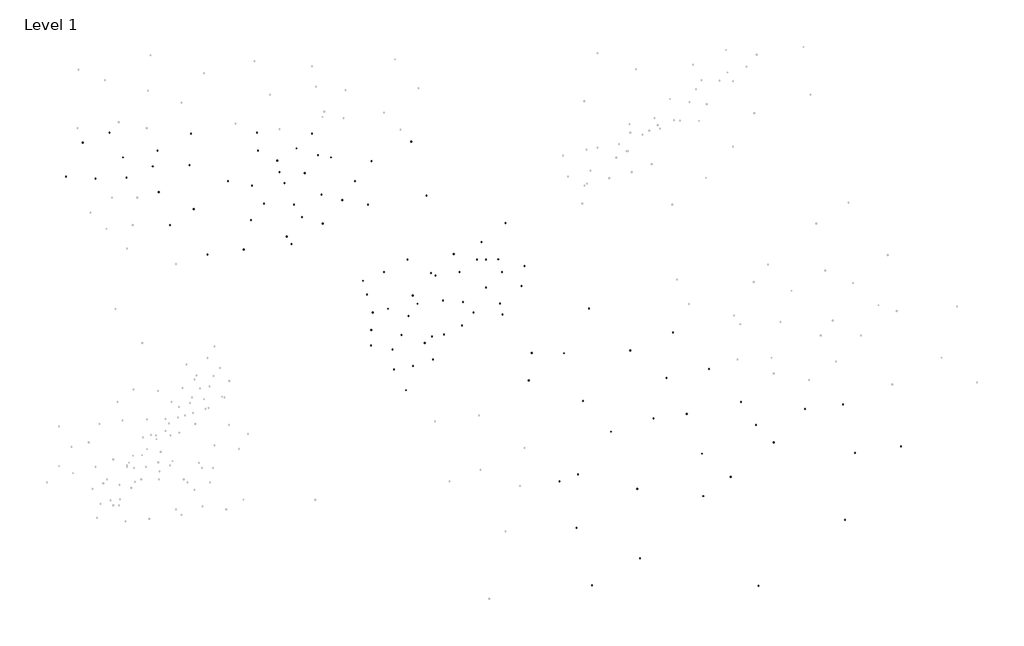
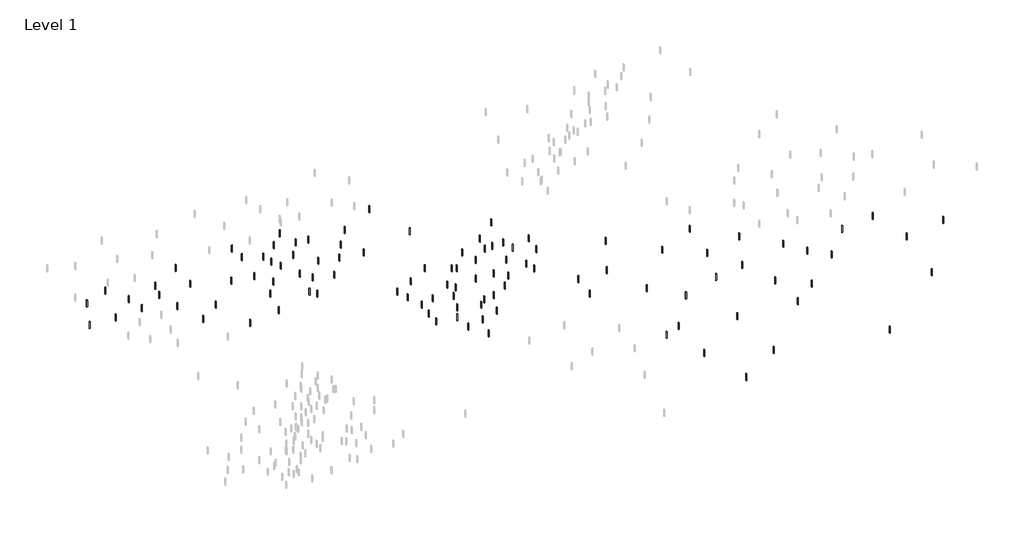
# One storey, part 2 of 3: 110 columns.
"""IFC4 building model written with IfcOpenShell, lengths in millimetres."""

import ifcopenshell
import ifcopenshell.guid

model = None  # the IFC model being written
_history = None  # IfcOwnerHistory: only IFC2X3 demands one
_inside = {}  # id of a spatial element -> (the spatial element, [elements in it])
_under = {}  # id of a project, library or spatial element -> (it, [spatial elements below it])
_declared = {}  # id of a project -> (the project, [libraries it declares])
_typed = {}  # id of a type object -> (the type object, [elements of that type])
_made_of = {}  # id of a material, layer set ... -> (it, [elements and type objects made of it])


def new_model(schema):
    """Start an empty IFC model of exactly this schema.

    Asked for "IFC4X3", IfcOpenShell would pick the latest addendum, in which some entities
    have other attributes; the version numbers below select the first issue.
    IFC2X3 requires an IfcOwnerHistory on every rooted entity: one is made here for all.
    """
    global model, _history
    if schema == "IFC4X3":
        model = ifcopenshell.file(schema_version=(4, 3, 0, 0))
    else:
        model = ifcopenshell.file(schema=schema)
    _inside.clear()
    _under.clear()
    _declared.clear()
    _typed.clear()
    _made_of.clear()
    _history = None
    if model.schema == "IFC2X3":
        org = make("IfcOrganization", Name="unknown")
        user = make(
            "IfcPersonAndOrganization",
            ThePerson=make("IfcPerson", FamilyName="unknown"),
            TheOrganization=org,
        )
        app = make(
            "IfcApplication",
            ApplicationDeveloper=org,
            Version="unknown",
            ApplicationFullName="unknown",
            ApplicationIdentifier="unknown",
        )
        _history = make(
            "IfcOwnerHistory",
            OwningUser=user,
            OwningApplication=app,
            ChangeAction="ADDED",
            CreationDate=0,
        )
    return model


def make(cls, **values):
    """One entity of the class cls with the attributes given. An attribute that is None is left unset."""
    return model.create_entity(
        cls, **{name: value for name, value in values.items() if value is not None}
    )


def rooted(cls, **values):
    """An entity with a GlobalId (a new one), such as an element, a storey or a relation."""
    return make(cls, GlobalId=ifcopenshell.guid.new(), OwnerHistory=_history, **values)


def si_unit(unit_type, name, prefix=None):
    """IfcSIUnit, for example si_unit("LENGTHUNIT", "METRE", prefix="MILLI")."""
    return make("IfcSIUnit", UnitType=unit_type, Prefix=prefix, Name=name)


def assignment(units):
    """IfcUnitAssignment: the units of a project."""
    return None if units is None else make("IfcUnitAssignment", Units=units)


def point(xyz):
    """IfcCartesianPoint."""
    return None if xyz is None else make("IfcCartesianPoint", Coordinates=xyz)


def direction(xyz):
    """IfcDirection."""
    return None if xyz is None else make("IfcDirection", DirectionRatios=xyz)


def frame(location, z_axis=None, x_axis=None):
    """IfcAxis2Placement3D, a coordinate frame: its origin and axes. An axis left out is left unset."""
    return make(
        "IfcAxis2Placement3D",
        Location=point(location),
        Axis=direction(z_axis),
        RefDirection=direction(x_axis),
    )


def origin():
    """The frame at (0, 0, 0) with its axes left unset."""
    return frame((0.0, 0.0, 0.0))


def origin_with_axes():
    """The frame at (0, 0, 0) with the z axis (0, 0, 1) and the x axis (1, 0, 0) written out."""
    return frame((0.0, 0.0, 0.0), z_axis=(0.0, 0.0, 1.0), x_axis=(1.0, 0.0, 0.0))


def place(relative_to, where):
    """IfcLocalPlacement: puts the frame where relative to a parent placement (None: the world)."""
    return make(
        "IfcLocalPlacement", PlacementRelTo=relative_to, RelativePlacement=where
    )


def context(
    kind, dimensions, precision=None, world=None, true_north=None, identifier=None
):
    """IfcGeometricRepresentationContext, for example the 3D "Model" context."""
    return make(
        "IfcGeometricRepresentationContext",
        ContextIdentifier=identifier,
        ContextType=kind,
        CoordinateSpaceDimension=dimensions,
        Precision=precision,
        WorldCoordinateSystem=world,
        TrueNorth=true_north,
    )


def project(units=None, contexts=None):
    """IfcProject with its units and contexts."""
    return rooted(
        "IfcProject",
        Name="project",
        RepresentationContexts=contexts,
        UnitsInContext=assignment(units),
    )


def spatial(cls, under=None, at=None, **own):
    """A site, building, storey or space (cls), placed at a placement, below another one or the project."""
    s = rooted(cls, ObjectPlacement=at, **own)
    if under is not None:
        _under.setdefault(under.id(), (under, []))[1].append(s)
    return s


def polyline(points):
    """IfcPolyline through the points."""
    return make("IfcPolyline", Points=[point(p) for p in points])


def outline(outer, holes=None, kind="AREA"):
    """IfcArbitraryClosedProfileDef: a profile drawn as a closed curve; with holes, ...WithVoids."""
    if holes is None:
        return make("IfcArbitraryClosedProfileDef", ProfileType=kind, OuterCurve=outer)
    return make(
        "IfcArbitraryProfileDefWithVoids",
        ProfileType=kind,
        OuterCurve=outer,
        InnerCurves=holes,
    )


def extrude(swept, where, along, depth):
    """IfcExtrudedAreaSolid: the profile swept, set in the frame where, extruded along a direction by depth."""
    return make(
        "IfcExtrudedAreaSolid",
        SweptArea=swept,
        Position=where,
        ExtrudedDirection=direction(along),
        Depth=depth,
    )


def shape(context_of_items, identifier, shape_type, items):
    """IfcShapeRepresentation: the items that make up one representation, for example the "Body"."""
    return make(
        "IfcShapeRepresentation",
        ContextOfItems=context_of_items,
        RepresentationIdentifier=identifier,
        RepresentationType=shape_type,
        Items=items,
    )


def source(mapping_origin, context_of_items, identifier, shape_type, items):
    """IfcRepresentationMap: a shape defined once, which mapped items show again and again."""
    return make(
        "IfcRepresentationMap",
        MappingOrigin=mapping_origin,
        MappedRepresentation=shape(context_of_items, identifier, shape_type, items),
    )


def transform(
    local_origin,
    x_axis=None,
    y_axis=None,
    z_axis=None,
    scale=None,
    scale2=None,
    scale3=None,
    uniform=True,
):
    """IfcCartesianTransformationOperator3D, or its non-uniform kind. x_axis, y_axis, z_axis: its Axis1, 2, 3."""
    if uniform:
        return make(
            "IfcCartesianTransformationOperator3D",
            Axis1=direction(x_axis),
            Axis2=direction(y_axis),
            LocalOrigin=point(local_origin),
            Scale=scale,
            Axis3=direction(z_axis),
        )
    return make(
        "IfcCartesianTransformationOperator3DnonUniform",
        Axis1=direction(x_axis),
        Axis2=direction(y_axis),
        LocalOrigin=point(local_origin),
        Scale=scale,
        Axis3=direction(z_axis),
        Scale2=scale2,
        Scale3=scale3,
    )


def mapped(mapping_source, mapping_target):
    """IfcMappedItem: shows the shape of a source again, moved by a transform."""
    return make(
        "IfcMappedItem", MappingSource=mapping_source, MappingTarget=mapping_target
    )


def made_of(thing, what):
    """Note that an element or type object is made of a material, layer set ...; save() writes the relation."""
    if what is not None:
        _made_of.setdefault(what.id(), (what, []))[1].append(thing)
    return thing


def element(
    cls,
    number,
    at=None,
    inside=None,
    cuts=None,
    type_object=None,
    material=None,
    context=None,
    identifier="Body",
    shape_type=None,
    held_by="IfcProductDefinitionShape",
    body=None,
    shapes=None,
    **own,
):
    """One element of the class cls, such as IfcWall. Its Tag is "e" and its number.

    at: its placement. inside: the storey or other place that contains it. cuts: it is an
    opening in that element (IfcRelVoidsElement). A single representation is given by context,
    identifier, shape_type and body (its items); several are given by shapes. held_by: the class
    of the entity that holds the representations. save() writes the other relations.
    """
    e = rooted(cls, Tag="e%d" % number, ObjectPlacement=at, **own)
    if body is not None:
        shapes = [shape(context, identifier, shape_type, body)]
    if shapes is not None:
        e.Representation = make(held_by, Representations=shapes)
    if inside is not None:
        _inside.setdefault(inside.id(), (inside, []))[1].append(e)
    if cuts is not None:
        rooted(
            "IfcRelVoidsElement", RelatingBuildingElement=cuts, RelatedOpeningElement=e
        )
    if type_object is not None:
        _typed.setdefault(type_object.id(), (type_object, []))[1].append(e)
    return made_of(e, material)


def aggregate(whole, parts):
    """IfcRelAggregates: a whole, such as a stair, and the parts it consists of."""
    return rooted("IfcRelAggregates", RelatingObject=whole, RelatedObjects=parts)


def save(model, path):
    """Write the relations noted so far, then the file.

    IfcRelAggregates (storeys below a building ...), IfcRelContainedInSpatialStructure (elements
    in a storey), IfcRelDefinesByType, IfcRelAssociatesMaterial and IfcRelDeclares: one each for
    every whole, place, type object, material and project.
    """
    for whole, parts in _under.values():
        aggregate(whole, parts)
    for where, things in _inside.values():
        rooted(
            "IfcRelContainedInSpatialStructure",
            RelatedElements=things,
            RelatingStructure=where,
        )
    for kind, things in _typed.values():
        rooted("IfcRelDefinesByType", RelatedObjects=things, RelatingType=kind)
    for what, things in _made_of.values():
        rooted("IfcRelAssociatesMaterial", RelatedObjects=things, RelatingMaterial=what)
    for by, libraries in _declared.values():
        rooted("IfcRelDeclares", RelatingContext=by, RelatedDefinitions=libraries)
    model.write(path)


def concrete_rectangular_column_12_x_18_4e544043(model_context):
    return source(origin(), model_context, "Body", "SweptSolid", [
        extrude(outline(polyline([(152.4, 228.6), (152.4, -228.6), (-152.4, -228.6), (-152.4, 228.6), (152.4, 228.6)])), origin_with_axes(), (0.0, 0.0, 1.0), 4000.0),
    ])


model = new_model("IFC4")

# Units and contexts
model_context = context("Model", 3, world=origin())
ifc_project = project(units=[si_unit("LENGTHUNIT", "METRE", prefix="MILLI")], contexts=[model_context])

# Site, building, storey
site = spatial("IfcSite", under=ifc_project)
building = spatial("IfcBuilding", under=site)
storey = spatial("IfcBuildingStorey", under=building, Name="Level 1", Elevation=0.0)

# Columns
placement = place(None, origin())
concrete_rectangular_column_12_x_18_shape = concrete_rectangular_column_12_x_18_4e544043(model_context)
element("IfcColumn", 1, ObjectType="Concrete-Rectangular-Column : 12 x 18", at=placement, inside=storey, context=model_context, shape_type="MappedRepresentation", body=[
    mapped(concrete_rectangular_column_12_x_18_shape, transform((363757.8333105, 113456.6200125, 0.0), x_axis=(1.0, 0.0, 0.0), y_axis=(0.0, 1.0, 0.0), z_axis=(0.0, 0.0, 1.0))),
])
element("IfcColumn", 2, ObjectType="Concrete-Rectangular-Column : 12 x 18", at=placement, inside=storey, context=model_context, shape_type="MappedRepresentation", body=[
    mapped(concrete_rectangular_column_12_x_18_shape, transform((320395.7430506, 136221.7173989, 0.0), x_axis=(1.0, 0.0, 0.0), y_axis=(0.0, 1.0, 0.0), z_axis=(0.0, 0.0, 1.0))),
])
element("IfcColumn", 3, ObjectType="Concrete-Rectangular-Column : 12 x 18", at=placement, inside=storey, context=model_context, shape_type="MappedRepresentation", body=[
    mapped(concrete_rectangular_column_12_x_18_shape, transform((406035.8713138, 123213.090321, 0.0), x_axis=(1.0, 0.0, 0.0), y_axis=(0.0, 1.0, 0.0), z_axis=(0.0, 0.0, 1.0))),
])
element("IfcColumn", 4, ObjectType="Concrete-Rectangular-Column : 12 x 18", at=placement, inside=storey, context=model_context, shape_type="MappedRepresentation", body=[
    mapped(concrete_rectangular_column_12_x_18_shape, transform((372430.2513624, 104784.2019605, 0.0), x_axis=(1.0, 0.0, 0.0), y_axis=(0.0, 1.0, 0.0), z_axis=(0.0, 0.0, 1.0))),
])
element("IfcColumn", 5, ObjectType="Concrete-Rectangular-Column : 12 x 18", at=placement, inside=storey, context=model_context, shape_type="MappedRepresentation", body=[
    mapped(concrete_rectangular_column_12_x_18_shape, transform((340992.735924, 140557.9264249, 0.0), x_axis=(1.0, 0.0, 0.0), y_axis=(0.0, 1.0, 0.0), z_axis=(0.0, 0.0, 1.0))),
])
element("IfcColumn", 6, ObjectType="Concrete-Rectangular-Column : 12 x 18", at=placement, inside=storey, context=model_context, shape_type="MappedRepresentation", body=[
    mapped(concrete_rectangular_column_12_x_18_shape, transform((387606.9829534, 121044.985808, 0.0), x_axis=(1.0, 0.0, 0.0), y_axis=(0.0, 1.0, 0.0), z_axis=(0.0, 0.0, 1.0))),
])
element("IfcColumn", 7, ObjectType="Concrete-Rectangular-Column : 12 x 18", at=placement, inside=storey, context=model_context, shape_type="MappedRepresentation", body=[
    mapped(concrete_rectangular_column_12_x_18_shape, transform((434221.0131722, 102969.9321041, 0.0), x_axis=(1.0, 0.0, 0.0), y_axis=(0.0, 1.0, 0.0), z_axis=(0.0, 0.0, 1.0))),
])
element("IfcColumn", 8, ObjectType="Concrete-Rectangular-Column : 12 x 18", at=placement, inside=storey, context=model_context, shape_type="MappedRepresentation", body=[
    mapped(concrete_rectangular_column_12_x_18_shape, transform((279880.4824216, 125018.5793541, 0.0), x_axis=(1.0, 0.0, 0.0), y_axis=(0.0, 1.0, 0.0), z_axis=(0.0, 0.0, 1.0))),
])
element("IfcColumn", 9, ObjectType="Concrete-Rectangular-Column : 12 x 18", at=placement, inside=storey, context=model_context, shape_type="MappedRepresentation", body=[
    mapped(concrete_rectangular_column_12_x_18_shape, transform((197375.8669051, 142088.4998058, 0.0), x_axis=(1.0, 0.0, 0.0), y_axis=(0.0, 1.0, 0.0), z_axis=(0.0, 0.0, 1.0))),
])
element("IfcColumn", 10, ObjectType="Concrete-Rectangular-Column : 12 x 18", at=placement, inside=storey, context=model_context, shape_type="MappedRepresentation", body=[
    mapped(concrete_rectangular_column_12_x_18_shape, transform((240761.9147198, 166982.1337979, 0.0), x_axis=(1.0, 0.0, 0.0), y_axis=(0.0, 1.0, 0.0), z_axis=(0.0, 0.0, 1.0))),
])
element("IfcColumn", 11, ObjectType="Concrete-Rectangular-Column : 12 x 18", at=placement, inside=storey, context=model_context, shape_type="MappedRepresentation", body=[
    mapped(concrete_rectangular_column_12_x_18_shape, transform((139618.3187104, 220357.2656657, 0.0), x_axis=(1.0, 0.0, 0.0), y_axis=(0.0, 1.0, 0.0), z_axis=(0.0, 0.0, 1.0))),
])
element("IfcColumn", 12, ObjectType="Concrete-Rectangular-Column : 12 x 18", at=placement, inside=storey, context=model_context, shape_type="MappedRepresentation", body=[
    mapped(concrete_rectangular_column_12_x_18_shape, transform((119301.7974228, 229628.8782884, 0.0), x_axis=(1.0, 0.0, 0.0), y_axis=(0.0, 1.0, 0.0), z_axis=(0.0, 0.0, 1.0))),
])
element("IfcColumn", 13, ObjectType="Concrete-Rectangular-Column : 12 x 18", at=placement, inside=storey, context=model_context, shape_type="MappedRepresentation", body=[
    mapped(concrete_rectangular_column_12_x_18_shape, transform((132652.6542689, 236173.5460221, 0.0), x_axis=(1.0, 0.0, 0.0), y_axis=(0.0, 1.0, 0.0), z_axis=(0.0, 0.0, 1.0))),
])
element("IfcColumn", 14, ObjectType="Concrete-Rectangular-Column : 12 x 18", at=placement, inside=storey, context=model_context, shape_type="MappedRepresentation", body=[
    mapped(concrete_rectangular_column_12_x_18_shape, transform((107692.3566871, 231810.4341997, 0.0), x_axis=(1.0, 0.0, 0.0), y_axis=(0.0, 1.0, 0.0), z_axis=(0.0, 0.0, 1.0))),
])
element("IfcColumn", 15, ObjectType="Concrete-Rectangular-Column : 12 x 18", at=placement, inside=storey, context=model_context, shape_type="MappedRepresentation", body=[
    mapped(concrete_rectangular_column_12_x_18_shape, transform((118721.325386, 212721.8199764, 0.0), x_axis=(1.0, 0.0, 0.0), y_axis=(0.0, 1.0, 0.0), z_axis=(0.0, 0.0, 1.0))),
])
element("IfcColumn", 16, ObjectType="Concrete-Rectangular-Column : 12 x 18", at=placement, inside=storey, context=model_context, shape_type="MappedRepresentation", body=[
    mapped(concrete_rectangular_column_12_x_18_shape, transform((43259.9606037, 232901.2121553, 0.0), x_axis=(1.0, 0.0, 0.0), y_axis=(0.0, 1.0, 0.0), z_axis=(0.0, 0.0, 1.0))),
])
element("IfcColumn", 17, ObjectType="Concrete-Rectangular-Column : 12 x 18", at=placement, inside=storey, context=model_context, shape_type="MappedRepresentation", body=[
    mapped(concrete_rectangular_column_12_x_18_shape, transform((58352.2335602, 233446.6011331, 0.0), x_axis=(1.0, 0.0, 0.0), y_axis=(0.0, 1.0, 0.0), z_axis=(0.0, 0.0, 1.0))),
])
element("IfcColumn", 18, ObjectType="Concrete-Rectangular-Column : 12 x 18", at=placement, inside=storey, context=model_context, shape_type="MappedRepresentation", body=[
    mapped(concrete_rectangular_column_12_x_18_shape, transform((56610.8174498, 243263.6027336, 0.0), x_axis=(1.0, 0.0, 0.0), y_axis=(0.0, 1.0, 0.0), z_axis=(0.0, 0.0, 1.0))),
])
element("IfcColumn", 19, ObjectType="Concrete-Rectangular-Column : 12 x 18", at=placement, inside=storey, context=model_context, shape_type="MappedRepresentation", body=[
    mapped(concrete_rectangular_column_12_x_18_shape, transform((151227.7594461, 244354.3806892, 0.0), x_axis=(1.0, 0.0, 0.0), y_axis=(0.0, 1.0, 0.0), z_axis=(0.0, 0.0, 1.0))),
])
element("IfcColumn", 20, ObjectType="Concrete-Rectangular-Column : 12 x 18", at=placement, inside=storey, context=model_context, shape_type="MappedRepresentation", body=[
    mapped(concrete_rectangular_column_12_x_18_shape, transform((148325.3992622, 254716.7712675, 0.0), x_axis=(1.0, 0.0, 0.0), y_axis=(0.0, 1.0, 0.0), z_axis=(0.0, 0.0, 1.0))),
])
element("IfcColumn", 21, ObjectType="Concrete-Rectangular-Column : 12 x 18", at=placement, inside=storey, context=model_context, shape_type="MappedRepresentation", body=[
    mapped(concrete_rectangular_column_12_x_18_shape, transform((131491.7101953, 241627.4358002, 0.0), x_axis=(1.0, 0.0, 0.0), y_axis=(0.0, 1.0, 0.0), z_axis=(0.0, 0.0, 1.0))),
])
element("IfcColumn", 22, ObjectType="Concrete-Rectangular-Column : 12 x 18", at=placement, inside=storey, context=model_context, shape_type="MappedRepresentation", body=[
    mapped(concrete_rectangular_column_12_x_18_shape, transform((144842.5670415, 235628.1570443, 0.0), x_axis=(1.0, 0.0, 0.0), y_axis=(0.0, 1.0, 0.0), z_axis=(0.0, 0.0, 1.0))),
])
element("IfcColumn", 23, ObjectType="Concrete-Rectangular-Column : 12 x 18", at=placement, inside=storey, context=model_context, shape_type="MappedRepresentation", body=[
    mapped(concrete_rectangular_column_12_x_18_shape, transform((71122.6183695, 238900.4909111, 0.0), x_axis=(1.0, 0.0, 0.0), y_axis=(0.0, 1.0, 0.0), z_axis=(0.0, 0.0, 1.0))),
])
element("IfcColumn", 24, ObjectType="Concrete-Rectangular-Column : 12 x 18", at=placement, inside=storey, context=model_context, shape_type="MappedRepresentation", body=[
    mapped(concrete_rectangular_column_12_x_18_shape, transform((50225.6250451, 255262.1602453, 0.0), x_axis=(1.0, 0.0, 0.0), y_axis=(0.0, 1.0, 0.0), z_axis=(0.0, 0.0, 1.0))),
])
element("IfcColumn", 25, ObjectType="Concrete-Rectangular-Column : 12 x 18", at=placement, inside=storey, context=model_context, shape_type="MappedRepresentation", body=[
    mapped(concrete_rectangular_column_12_x_18_shape, transform((89697.7235467, 254716.7712675, 0.0), x_axis=(1.0, 0.0, 0.0), y_axis=(0.0, 1.0, 0.0), z_axis=(0.0, 0.0, 1.0))),
])
element("IfcColumn", 26, ObjectType="Concrete-Rectangular-Column : 12 x 18", at=placement, inside=storey, context=model_context, shape_type="MappedRepresentation", body=[
    mapped(concrete_rectangular_column_12_x_18_shape, transform((74024.9785534, 226356.5444216, 0.0), x_axis=(1.0, 0.0, 0.0), y_axis=(0.0, 1.0, 0.0), z_axis=(0.0, 0.0, 1.0))),
])
element("IfcColumn", 27, ObjectType="Concrete-Rectangular-Column : 12 x 18", at=placement, inside=storey, context=model_context, shape_type="MappedRepresentation", body=[
    mapped(concrete_rectangular_column_12_x_18_shape, transform((282725.4691635, 169827.1205398, 0.0), x_axis=(1.0, 0.0, 0.0), y_axis=(0.0, 1.0, 0.0), z_axis=(0.0, 0.0, 1.0))),
])
element("IfcColumn", 28, ObjectType="Concrete-Rectangular-Column : 12 x 18", at=placement, inside=storey, context=model_context, shape_type="MappedRepresentation", body=[
    mapped(concrete_rectangular_column_12_x_18_shape, transform((306196.6097846, 82343.7782249, 0.0), x_axis=(1.0, 0.0, 0.0), y_axis=(0.0, 1.0, 0.0), z_axis=(0.0, 0.0, 1.0))),
])
element("IfcColumn", 29, ObjectType="Concrete-Rectangular-Column : 12 x 18", at=placement, inside=storey, context=model_context, shape_type="MappedRepresentation", body=[
    mapped(concrete_rectangular_column_12_x_18_shape, transform((268500.5354538, 85900.0116524, 0.0), x_axis=(1.0, 0.0, 0.0), y_axis=(0.0, 1.0, 0.0), z_axis=(0.0, 0.0, 1.0))),
])
element("IfcColumn", 30, ObjectType="Concrete-Rectangular-Column : 12 x 18", at=placement, inside=storey, context=model_context, shape_type="MappedRepresentation", body=[
    mapped(concrete_rectangular_column_12_x_18_shape, transform((284147.9625345, 35401.4969828, 0.0), x_axis=(1.0, 0.0, 0.0), y_axis=(0.0, 1.0, 0.0), z_axis=(0.0, 0.0, 1.0))),
])
element("IfcColumn", 31, ObjectType="Concrete-Rectangular-Column : 12 x 18", at=placement, inside=storey, context=model_context, shape_type="MappedRepresentation", body=[
    mapped(concrete_rectangular_column_12_x_18_shape, transform((338202.7106315, 78787.5447975, 0.0), x_axis=(1.0, 0.0, 0.0), y_axis=(0.0, 1.0, 0.0), z_axis=(0.0, 0.0, 1.0))),
])
element("IfcColumn", 32, ObjectType="Concrete-Rectangular-Column : 12 x 18", at=placement, inside=storey, context=model_context, shape_type="MappedRepresentation", body=[
    mapped(concrete_rectangular_column_12_x_18_shape, transform((314020.323325, 116483.6191283, 0.0), x_axis=(1.0, 0.0, 0.0), y_axis=(0.0, 1.0, 0.0), z_axis=(0.0, 0.0, 1.0))),
])
element("IfcColumn", 33, ObjectType="Concrete-Rectangular-Column : 12 x 18", at=placement, inside=storey, context=model_context, shape_type="MappedRepresentation", body=[
    mapped(concrete_rectangular_column_12_x_18_shape, transform((253564.3550586, 134976.032951, 0.0), x_axis=(1.0, 0.0, 0.0), y_axis=(0.0, 1.0, 0.0), z_axis=(0.0, 0.0, 1.0))),
])
element("IfcColumn", 34, ObjectType="Concrete-Rectangular-Column : 12 x 18", at=placement, inside=storey, context=model_context, shape_type="MappedRepresentation", body=[
    mapped(concrete_rectangular_column_12_x_18_shape, transform((115238.4931653, 198541.7065535, 0.0), x_axis=(1.0, 0.0, 0.0), y_axis=(0.0, 1.0, 0.0), z_axis=(0.0, 0.0, 1.0))),
])
element("IfcColumn", 35, ObjectType="Concrete-Rectangular-Column : 12 x 18", at=placement, inside=storey, context=model_context, shape_type="MappedRepresentation", body=[
    mapped(concrete_rectangular_column_12_x_18_shape, transform((138457.3746368, 201268.6514425, 0.0), x_axis=(1.0, 0.0, 0.0), y_axis=(0.0, 1.0, 0.0), z_axis=(0.0, 0.0, 1.0))),
])
element("IfcColumn", 36, ObjectType="Concrete-Rectangular-Column : 12 x 18", at=placement, inside=storey, context=model_context, shape_type="MappedRepresentation", body=[
    mapped(concrete_rectangular_column_12_x_18_shape, transform((134974.5424161, 230719.656244, 0.0), x_axis=(1.0, 0.0, 0.0), y_axis=(0.0, 1.0, 0.0), z_axis=(0.0, 0.0, 1.0))),
])
element("IfcColumn", 37, ObjectType="Concrete-Rectangular-Column : 12 x 18", at=placement, inside=storey, context=model_context, shape_type="MappedRepresentation", body=[
    mapped(concrete_rectangular_column_12_x_18_shape, transform((169222.3925865, 231810.4341997, 0.0), x_axis=(1.0, 0.0, 0.0), y_axis=(0.0, 1.0, 0.0), z_axis=(0.0, 0.0, 1.0))),
])
element("IfcColumn", 38, ObjectType="Concrete-Rectangular-Column : 12 x 18", at=placement, inside=storey, context=model_context, shape_type="MappedRepresentation", body=[
    mapped(concrete_rectangular_column_12_x_18_shape, transform((157612.9518508, 243263.6027336, 0.0), x_axis=(1.0, 0.0, 0.0), y_axis=(0.0, 1.0, 0.0), z_axis=(0.0, 0.0, 1.0))),
])
element("IfcColumn", 39, ObjectType="Concrete-Rectangular-Column : 12 x 18", at=placement, inside=storey, context=model_context, shape_type="MappedRepresentation", body=[
    mapped(concrete_rectangular_column_12_x_18_shape, transform((196504.5783155, 250899.0484229, 0.0), x_axis=(1.0, 0.0, 0.0), y_axis=(0.0, 1.0, 0.0), z_axis=(0.0, 0.0, 1.0))),
])
element("IfcColumn", 40, ObjectType="Concrete-Rectangular-Column : 12 x 18", at=placement, inside=storey, context=model_context, shape_type="MappedRepresentation", body=[
    mapped(concrete_rectangular_column_12_x_18_shape, transform((140779.2627839, 247626.714556, 0.0), x_axis=(1.0, 0.0, 0.0), y_axis=(0.0, 1.0, 0.0), z_axis=(0.0, 0.0, 1.0))),
])
element("IfcColumn", 41, ObjectType="Concrete-Rectangular-Column : 12 x 18", at=placement, inside=storey, context=model_context, shape_type="MappedRepresentation", body=[
    mapped(concrete_rectangular_column_12_x_18_shape, transform((121623.68557, 255262.1602453, 0.0), x_axis=(1.0, 0.0, 0.0), y_axis=(0.0, 1.0, 0.0), z_axis=(0.0, 0.0, 1.0))),
])
element("IfcColumn", 42, ObjectType="Concrete-Rectangular-Column : 12 x 18", at=placement, inside=storey, context=model_context, shape_type="MappedRepresentation", body=[
    mapped(concrete_rectangular_column_12_x_18_shape, transform((122204.1576068, 246535.9366004, 0.0), x_axis=(1.0, 0.0, 0.0), y_axis=(0.0, 1.0, 0.0), z_axis=(0.0, 0.0, 1.0))),
])
element("IfcColumn", 43, ObjectType="Concrete-Rectangular-Column : 12 x 18", at=placement, inside=storey, context=model_context, shape_type="MappedRepresentation", body=[
    mapped(concrete_rectangular_column_12_x_18_shape, transform((152969.1755565, 225265.766466, 0.0), x_axis=(1.0, 0.0, 0.0), y_axis=(0.0, 1.0, 0.0), z_axis=(0.0, 0.0, 1.0))),
])
element("IfcColumn", 44, ObjectType="Concrete-Rectangular-Column : 12 x 18", at=placement, inside=storey, context=model_context, shape_type="MappedRepresentation", body=[
    mapped(concrete_rectangular_column_12_x_18_shape, transform((125106.5177907, 220902.6546435, 0.0), x_axis=(1.0, 0.0, 0.0), y_axis=(0.0, 1.0, 0.0), z_axis=(0.0, 0.0, 1.0))),
])
element("IfcColumn", 45, ObjectType="Concrete-Rectangular-Column : 12 x 18", at=placement, inside=storey, context=model_context, shape_type="MappedRepresentation", body=[
    mapped(concrete_rectangular_column_12_x_18_shape, transform((173193.4795986, 183340.8075641, 0.0), x_axis=(1.0, 0.0, 0.0), y_axis=(0.0, 1.0, 0.0), z_axis=(0.0, 0.0, 1.0))),
])
element("IfcColumn", 46, ObjectType="Concrete-Rectangular-Column : 12 x 18", at=placement, inside=storey, context=model_context, shape_type="MappedRepresentation", body=[
    mapped(concrete_rectangular_column_12_x_18_shape, transform((175607.5849912, 220357.2656657, 0.0), x_axis=(1.0, 0.0, 0.0), y_axis=(0.0, 1.0, 0.0), z_axis=(0.0, 0.0, 1.0))),
])
element("IfcColumn", 47, ObjectType="Concrete-Rectangular-Column : 12 x 18", at=placement, inside=storey, context=model_context, shape_type="MappedRepresentation", body=[
    mapped(concrete_rectangular_column_12_x_18_shape, transform((206622.0738165, 156313.4335156, 0.0), x_axis=(1.0, 0.0, 0.0), y_axis=(0.0, 1.0, 0.0), z_axis=(0.0, 0.0, 1.0))),
])
element("IfcColumn", 48, ObjectType="Concrete-Rectangular-Column : 12 x 18", at=placement, inside=storey, context=model_context, shape_type="MappedRepresentation", body=[
    mapped(concrete_rectangular_column_12_x_18_shape, transform((194766.1156975, 193730.9777909, 0.0), x_axis=(1.0, 0.0, 0.0), y_axis=(0.0, 1.0, 0.0), z_axis=(0.0, 0.0, 1.0))),
])
element("IfcColumn", 49, ObjectType="Concrete-Rectangular-Column : 12 x 18", at=placement, inside=storey, context=model_context, shape_type="MappedRepresentation", body=[
    mapped(concrete_rectangular_column_12_x_18_shape, transform((177191.7441578, 241475.8859571, 0.0), x_axis=(1.0, 0.0, 0.0), y_axis=(0.0, 1.0, 0.0), z_axis=(0.0, 0.0, 1.0))),
])
element("IfcColumn", 50, ObjectType="Concrete-Rectangular-Column : 12 x 18", at=placement, inside=storey, context=model_context, shape_type="MappedRepresentation", body=[
    mapped(concrete_rectangular_column_12_x_18_shape, transform((163052.7854946, 222498.1483233, 0.0), x_axis=(1.0, 0.0, 0.0), y_axis=(0.0, 1.0, 0.0), z_axis=(0.0, 0.0, 1.0))),
])
element("IfcColumn", 51, ObjectType="Concrete-Rectangular-Column : 12 x 18", at=placement, inside=storey, context=model_context, shape_type="MappedRepresentation", body=[
    mapped(concrete_rectangular_column_12_x_18_shape, transform((136121.43566, 204785.5931983, 0.0), x_axis=(1.0, 0.0, 0.0), y_axis=(0.0, 1.0, 0.0), z_axis=(0.0, 0.0, 1.0))),
])
element("IfcColumn", 52, ObjectType="Concrete-Rectangular-Column : 12 x 18", at=placement, inside=storey, context=model_context, shape_type="MappedRepresentation", body=[
    mapped(concrete_rectangular_column_12_x_18_shape, transform((143527.5568645, 214274.4620152, 0.0), x_axis=(1.0, 0.0, 0.0), y_axis=(0.0, 1.0, 0.0), z_axis=(0.0, 0.0, 1.0))),
])
element("IfcColumn", 53, ObjectType="Concrete-Rectangular-Column : 12 x 18", at=placement, inside=storey, context=model_context, shape_type="MappedRepresentation", body=[
    mapped(concrete_rectangular_column_12_x_18_shape, transform((153626.8130525, 211111.5057429, 0.0), x_axis=(1.0, 0.0, 0.0), y_axis=(0.0, 1.0, 0.0), z_axis=(0.0, 0.0, 1.0))),
])
element("IfcColumn", 54, ObjectType="Concrete-Rectangular-Column : 12 x 18", at=placement, inside=storey, context=model_context, shape_type="MappedRepresentation", body=[
    mapped(concrete_rectangular_column_12_x_18_shape, transform((73506.0472945, 246536.6159928, 0.0), x_axis=(1.0, 0.0, 0.0), y_axis=(0.0, 1.0, 0.0), z_axis=(0.0, 0.0, 1.0))),
])
element("IfcColumn", 55, ObjectType="Concrete-Rectangular-Column : 12 x 18", at=placement, inside=storey, context=model_context, shape_type="MappedRepresentation", body=[
    mapped(concrete_rectangular_column_12_x_18_shape, transform((88991.5734494, 239578.1121937, 0.0), x_axis=(1.0, 0.0, 0.0), y_axis=(0.0, 1.0, 0.0), z_axis=(0.0, 0.0, 1.0))),
])
element("IfcColumn", 56, ObjectType="Concrete-Rectangular-Column : 12 x 18", at=placement, inside=storey, context=model_context, shape_type="MappedRepresentation", body=[
    mapped(concrete_rectangular_column_12_x_18_shape, transform((91011.424687, 218070.009542, 0.0), x_axis=(1.0, 0.0, 0.0), y_axis=(0.0, 1.0, 0.0), z_axis=(0.0, 0.0, 1.0))),
])
element("IfcColumn", 57, ObjectType="Concrete-Rectangular-Column : 12 x 18", at=placement, inside=storey, context=model_context, shape_type="MappedRepresentation", body=[
    mapped(concrete_rectangular_column_12_x_18_shape, transform((79565.6010072, 210478.9144885, 0.0), x_axis=(1.0, 0.0, 0.0), y_axis=(0.0, 1.0, 0.0), z_axis=(0.0, 0.0, 1.0))),
])
element("IfcColumn", 58, ObjectType="Concrete-Rectangular-Column : 12 x 18", at=placement, inside=storey, context=model_context, shape_type="MappedRepresentation", body=[
    mapped(concrete_rectangular_column_12_x_18_shape, transform((29069.3200673, 233884.7909036, 0.0), x_axis=(1.0, 0.0, 0.0), y_axis=(0.0, 1.0, 0.0), z_axis=(0.0, 0.0, 1.0))),
])
element("IfcColumn", 59, ObjectType="Concrete-Rectangular-Column : 12 x 18", at=placement, inside=storey, context=model_context, shape_type="MappedRepresentation", body=[
    mapped(concrete_rectangular_column_12_x_18_shape, transform((37148.7250177, 250332.1635196, 0.0), x_axis=(1.0, 0.0, 0.0), y_axis=(0.0, 1.0, 0.0), z_axis=(0.0, 0.0, 1.0))),
])
element("IfcColumn", 60, ObjectType="Concrete-Rectangular-Column : 12 x 18", at=placement, inside=storey, context=model_context, shape_type="MappedRepresentation", body=[
    mapped(concrete_rectangular_column_12_x_18_shape, transform((356459.8360647, 124433.669062, 0.0), x_axis=(1.0, 0.0, 0.0), y_axis=(0.0, 1.0, 0.0), z_axis=(0.0, 0.0, 1.0))),
])
element("IfcColumn", 61, ObjectType="Concrete-Rectangular-Column : 12 x 18", at=placement, inside=storey, context=model_context, shape_type="MappedRepresentation", body=[
    mapped(concrete_rectangular_column_12_x_18_shape, transform((323461.1176224, 158257.3554654, 0.0), x_axis=(1.0, 0.0, 0.0), y_axis=(0.0, 1.0, 0.0), z_axis=(0.0, 0.0, 1.0))),
])
element("IfcColumn", 62, ObjectType="Concrete-Rectangular-Column : 12 x 18", at=placement, inside=storey, context=model_context, shape_type="MappedRepresentation", body=[
    mapped(concrete_rectangular_column_12_x_18_shape, transform((351510.0282984, 88135.0787755, 0.0), x_axis=(1.0, 0.0, 0.0), y_axis=(0.0, 1.0, 0.0), z_axis=(0.0, 0.0, 1.0))),
])
element("IfcColumn", 63, ObjectType="Concrete-Rectangular-Column : 12 x 18", at=placement, inside=storey, context=model_context, shape_type="MappedRepresentation", body=[
    mapped(concrete_rectangular_column_12_x_18_shape, transform((411732.6894556, 99684.6302303, 0.0), x_axis=(1.0, 0.0, 0.0), y_axis=(0.0, 1.0, 0.0), z_axis=(0.0, 0.0, 1.0))),
])
element("IfcColumn", 64, ObjectType="Concrete-Rectangular-Column : 12 x 18", at=placement, inside=storey, context=model_context, shape_type="MappedRepresentation", body=[
    mapped(concrete_rectangular_column_12_x_18_shape, transform((254988.7768546, 148357.7399327, 0.0), x_axis=(1.0, 0.0, 0.0), y_axis=(0.0, 1.0, 0.0), z_axis=(0.0, 0.0, 1.0))),
])
element("IfcColumn", 65, ObjectType="Concrete-Rectangular-Column : 12 x 18", at=placement, inside=storey, context=model_context, shape_type="MappedRepresentation", body=[
    mapped(concrete_rectangular_column_12_x_18_shape, transform((207140.6351133, 145057.8680885, 0.0), x_axis=(1.0, 0.0, 0.0), y_axis=(0.0, 1.0, 0.0), z_axis=(0.0, 0.0, 1.0))),
])
element("IfcColumn", 66, ObjectType="Concrete-Rectangular-Column : 12 x 18", at=placement, inside=storey, context=model_context, shape_type="MappedRepresentation", body=[
    mapped(concrete_rectangular_column_12_x_18_shape, transform((232714.6419061, 193730.9777909, 0.0), x_axis=(1.0, 0.0, 0.0), y_axis=(0.0, 1.0, 0.0), z_axis=(0.0, 0.0, 1.0))),
])
element("IfcColumn", 67, ObjectType="Concrete-Rectangular-Column : 12 x 18", at=placement, inside=storey, context=model_context, shape_type="MappedRepresentation", body=[
    mapped(concrete_rectangular_column_12_x_18_shape, transform((221165.0904513, 161557.2273096, 0.0), x_axis=(1.0, 0.0, 0.0), y_axis=(0.0, 1.0, 0.0), z_axis=(0.0, 0.0, 1.0))),
])
element("IfcColumn", 68, ObjectType="Concrete-Rectangular-Column : 12 x 18", at=placement, inside=storey, context=model_context, shape_type="MappedRepresentation", body=[
    mapped(concrete_rectangular_column_12_x_18_shape, transform((193941.1477364, 130208.4447894, 0.0), x_axis=(1.0, 0.0, 0.0), y_axis=(0.0, 1.0, 0.0), z_axis=(0.0, 0.0, 1.0))),
])
element("IfcColumn", 69, ObjectType="Concrete-Rectangular-Column : 12 x 18", at=placement, inside=storey, context=model_context, shape_type="MappedRepresentation", body=[
    mapped(concrete_rectangular_column_12_x_18_shape, transform((97643.8156297, 196111.2894848, 0.0), x_axis=(1.0, 0.0, 0.0), y_axis=(0.0, 1.0, 0.0), z_axis=(0.0, 0.0, 1.0))),
])
element("IfcColumn", 70, ObjectType="Concrete-Rectangular-Column : 12 x 18", at=placement, inside=storey, context=model_context, shape_type="MappedRepresentation", body=[
    mapped(concrete_rectangular_column_12_x_18_shape, transform((203988.9832892, 224805.6287872, 0.0), x_axis=(1.0, 0.0, 0.0), y_axis=(0.0, 1.0, 0.0), z_axis=(0.0, 0.0, 1.0))),
])
element("IfcColumn", 71, ObjectType="Concrete-Rectangular-Column : 12 x 18", at=placement, inside=storey, context=model_context, shape_type="MappedRepresentation", body=[
    mapped(concrete_rectangular_column_12_x_18_shape, transform((302788.0895831, 149519.017787, 0.0), x_axis=(1.0, 0.0, 0.0), y_axis=(0.0, 1.0, 0.0), z_axis=(0.0, 0.0, 1.0))),
])
element("IfcColumn", 72, ObjectType="Concrete-Rectangular-Column : 12 x 18", at=placement, inside=storey, context=model_context, shape_type="MappedRepresentation", body=[
    mapped(concrete_rectangular_column_12_x_18_shape, transform((270713.3352571, 148182.56969, 0.0), x_axis=(1.0, 0.0, 0.0), y_axis=(0.0, 1.0, 0.0), z_axis=(0.0, 0.0, 1.0))),
])
element("IfcColumn", 73, ObjectType="Concrete-Rectangular-Column : 12 x 18", at=placement, inside=storey, context=model_context, shape_type="MappedRepresentation", body=[
    mapped(concrete_rectangular_column_12_x_18_shape, transform((337535.7401028, 99402.2141527, 0.0), x_axis=(1.0, 0.0, 0.0), y_axis=(0.0, 1.0, 0.0), z_axis=(0.0, 0.0, 1.0))),
])
element("IfcColumn", 74, ObjectType="Concrete-Rectangular-Column : 12 x 18", at=placement, inside=storey, context=model_context, shape_type="MappedRepresentation", body=[
    mapped(concrete_rectangular_column_12_x_18_shape, transform((330185.2755698, 118780.711558, 0.0), x_axis=(1.0, 0.0, 0.0), y_axis=(0.0, 1.0, 0.0), z_axis=(0.0, 0.0, 1.0))),
])
element("IfcColumn", 75, ObjectType="Concrete-Rectangular-Column : 12 x 18", at=placement, inside=storey, context=model_context, shape_type="MappedRepresentation", body=[
    mapped(concrete_rectangular_column_12_x_18_shape, transform((277395.5757417, 89378.8534259, 0.0), x_axis=(1.0, 0.0, 0.0), y_axis=(0.0, 1.0, 0.0), z_axis=(0.0, 0.0, 1.0))),
])
element("IfcColumn", 76, ObjectType="Concrete-Rectangular-Column : 12 x 18", at=placement, inside=storey, context=model_context, shape_type="MappedRepresentation", body=[
    mapped(concrete_rectangular_column_12_x_18_shape, transform((293432.9529047, 110093.798928, 0.0), x_axis=(1.0, 0.0, 0.0), y_axis=(0.0, 1.0, 0.0), z_axis=(0.0, 0.0, 1.0))),
])
element("IfcColumn", 77, ObjectType="Concrete-Rectangular-Column : 12 x 18", at=placement, inside=storey, context=model_context, shape_type="MappedRepresentation", body=[
    mapped(concrete_rectangular_column_12_x_18_shape, transform((407031.0411423, 67327.4598268, 0.0), x_axis=(1.0, 0.0, 0.0), y_axis=(0.0, 1.0, 0.0), z_axis=(0.0, 0.0, 1.0))),
])
element("IfcColumn", 78, ObjectType="Concrete-Rectangular-Column : 12 x 18", at=placement, inside=storey, context=model_context, shape_type="MappedRepresentation", body=[
    mapped(concrete_rectangular_column_12_x_18_shape, transform((364932.9260895, 35252.7055009, 0.0), x_axis=(1.0, 0.0, 0.0), y_axis=(0.0, 1.0, 0.0), z_axis=(0.0, 0.0, 1.0))),
])
element("IfcColumn", 79, ObjectType="Concrete-Rectangular-Column : 12 x 18", at=placement, inside=storey, context=model_context, shape_type="MappedRepresentation", body=[
    mapped(concrete_rectangular_column_12_x_18_shape, transform((307465.6579223, 48617.18647, 0.0), x_axis=(1.0, 0.0, 0.0), y_axis=(0.0, 1.0, 0.0), z_axis=(0.0, 0.0, 1.0))),
])
element("IfcColumn", 80, ObjectType="Concrete-Rectangular-Column : 12 x 18", at=placement, inside=storey, context=model_context, shape_type="MappedRepresentation", body=[
    mapped(concrete_rectangular_column_12_x_18_shape, transform((276727.3516933, 63318.1155361, 0.0), x_axis=(1.0, 0.0, 0.0), y_axis=(0.0, 1.0, 0.0), z_axis=(0.0, 0.0, 1.0))),
])
element("IfcColumn", 81, ObjectType="Concrete-Rectangular-Column : 12 x 18", at=placement, inside=storey, context=model_context, shape_type="MappedRepresentation", body=[
    mapped(concrete_rectangular_column_12_x_18_shape, transform((187508.896985, 149920.7255701, 0.0), x_axis=(1.0, 0.0, 0.0), y_axis=(0.0, 1.0, 0.0), z_axis=(0.0, 0.0, 1.0))),
])
element("IfcColumn", 82, ObjectType="Concrete-Rectangular-Column : 12 x 18", at=placement, inside=storey, context=model_context, shape_type="MappedRepresentation", body=[
    mapped(concrete_rectangular_column_12_x_18_shape, transform((217140.354332, 196342.1141509, 0.0), x_axis=(1.0, 0.0, 0.0), y_axis=(0.0, 1.0, 0.0), z_axis=(0.0, 0.0, 1.0))),
])
element("IfcColumn", 83, ObjectType="Concrete-Rectangular-Column : 12 x 18", at=placement, inside=storey, context=model_context, shape_type="MappedRepresentation", body=[
    mapped(concrete_rectangular_column_12_x_18_shape, transform((228382.982377, 193698.7922157, 0.0), x_axis=(1.0, 0.0, 0.0), y_axis=(0.0, 1.0, 0.0), z_axis=(0.0, 0.0, 1.0))),
])
element("IfcColumn", 84, ObjectType="Concrete-Rectangular-Column : 12 x 18", at=placement, inside=storey, context=model_context, shape_type="MappedRepresentation", body=[
    mapped(concrete_rectangular_column_12_x_18_shape, transform((250009.5625969, 180740.1914942, 0.0), x_axis=(1.0, 0.0, 0.0), y_axis=(0.0, 1.0, 0.0), z_axis=(0.0, 0.0, 1.0))),
])
element("IfcColumn", 85, ObjectType="Concrete-Rectangular-Column : 12 x 18", at=placement, inside=storey, context=model_context, shape_type="MappedRepresentation", body=[
    mapped(concrete_rectangular_column_12_x_18_shape, transform((238735.2921624, 193765.3756844, 0.0), x_axis=(1.0, 0.0, 0.0), y_axis=(0.0, 1.0, 0.0), z_axis=(0.0, 0.0, 1.0))),
])
element("IfcColumn", 86, ObjectType="Concrete-Rectangular-Column : 12 x 18", at=placement, inside=storey, context=model_context, shape_type="MappedRepresentation", body=[
    mapped(concrete_rectangular_column_12_x_18_shape, transform((242316.9088681, 211390.7996202, 0.0), x_axis=(1.0, 0.0, 0.0), y_axis=(0.0, 1.0, 0.0), z_axis=(0.0, 0.0, 1.0))),
])
element("IfcColumn", 87, ObjectType="Concrete-Rectangular-Column : 12 x 18", at=placement, inside=storey, context=model_context, shape_type="MappedRepresentation", body=[
    mapped(concrete_rectangular_column_12_x_18_shape, transform((230533.4782941, 202185.2277038, 0.0), x_axis=(1.0, 0.0, 0.0), y_axis=(0.0, 1.0, 0.0), z_axis=(0.0, 0.0, 1.0))),
])
element("IfcColumn", 88, ObjectType="Concrete-Rectangular-Column : 12 x 18", at=placement, inside=storey, context=model_context, shape_type="MappedRepresentation", body=[
    mapped(concrete_rectangular_column_12_x_18_shape, transform((219856.7248779, 187526.9885444, 0.0), x_axis=(1.0, 0.0, 0.0), y_axis=(0.0, 1.0, 0.0), z_axis=(0.0, 0.0, 1.0))),
])
element("IfcColumn", 89, ObjectType="Concrete-Rectangular-Column : 12 x 18", at=placement, inside=storey, context=model_context, shape_type="MappedRepresentation", body=[
    mapped(concrete_rectangular_column_12_x_18_shape, transform((211897.39509, 173792.3967147, 0.0), x_axis=(1.0, 0.0, 0.0), y_axis=(0.0, 1.0, 0.0), z_axis=(0.0, 0.0, 1.0))),
])
element("IfcColumn", 90, ObjectType="Concrete-Rectangular-Column : 12 x 18", at=placement, inside=storey, context=model_context, shape_type="MappedRepresentation", body=[
    mapped(concrete_rectangular_column_12_x_18_shape, transform((206074.6639368, 187208.008759, 0.0), x_axis=(1.0, 0.0, 0.0), y_axis=(0.0, 1.0, 0.0), z_axis=(0.0, 0.0, 1.0))),
])
element("IfcColumn", 91, ObjectType="Concrete-Rectangular-Column : 12 x 18", at=placement, inside=storey, context=model_context, shape_type="MappedRepresentation", body=[
    mapped(concrete_rectangular_column_12_x_18_shape, transform((197237.9746378, 176173.7744624, 0.0), x_axis=(1.0, 0.0, 0.0), y_axis=(0.0, 1.0, 0.0), z_axis=(0.0, 0.0, 1.0))),
])
element("IfcColumn", 92, ObjectType="Concrete-Rectangular-Column : 12 x 18", at=placement, inside=storey, context=model_context, shape_type="MappedRepresentation", body=[
    mapped(concrete_rectangular_column_12_x_18_shape, transform((183259.7739878, 187612.1784292, 0.0), x_axis=(1.0, 0.0, 0.0), y_axis=(0.0, 1.0, 0.0), z_axis=(0.0, 0.0, 1.0))),
])
element("IfcColumn", 93, ObjectType="Concrete-Rectangular-Column : 12 x 18", at=placement, inside=storey, context=model_context, shape_type="MappedRepresentation", body=[
    mapped(concrete_rectangular_column_12_x_18_shape, transform((177872.6846417, 167838.5465634, 0.0), x_axis=(1.0, 0.0, 0.0), y_axis=(0.0, 1.0, 0.0), z_axis=(0.0, 0.0, 1.0))),
])
element("IfcColumn", 94, ObjectType="Concrete-Rectangular-Column : 12 x 18", at=placement, inside=storey, context=model_context, shape_type="MappedRepresentation", body=[
    mapped(concrete_rectangular_column_12_x_18_shape, transform((175127.8684497, 176626.0011071, 0.0), x_axis=(1.0, 0.0, 0.0), y_axis=(0.0, 1.0, 0.0), z_axis=(0.0, 0.0, 1.0))),
])
element("IfcColumn", 95, ObjectType="Concrete-Rectangular-Column : 12 x 18", at=placement, inside=storey, context=model_context, shape_type="MappedRepresentation", body=[
    mapped(concrete_rectangular_column_12_x_18_shape, transform((177135.2955075, 159499.1394625, 0.0), x_axis=(1.0, 0.0, 0.0), y_axis=(0.0, 1.0, 0.0), z_axis=(0.0, 0.0, 1.0))),
])
element("IfcColumn", 96, ObjectType="Concrete-Rectangular-Column : 12 x 18", at=placement, inside=storey, context=model_context, shape_type="MappedRepresentation", body=[
    mapped(concrete_rectangular_column_12_x_18_shape, transform((177030.8058297, 151906.9573538, 0.0), x_axis=(1.0, 0.0, 0.0), y_axis=(0.0, 1.0, 0.0), z_axis=(0.0, 0.0, 1.0))),
])
element("IfcColumn", 97, ObjectType="Concrete-Rectangular-Column : 12 x 18", at=placement, inside=storey, context=model_context, shape_type="MappedRepresentation", body=[
    mapped(concrete_rectangular_column_12_x_18_shape, transform((188237.915685, 140340.0312248, 0.0), x_axis=(1.0, 0.0, 0.0), y_axis=(0.0, 1.0, 0.0), z_axis=(0.0, 0.0, 1.0))),
])
element("IfcColumn", 98, ObjectType="Concrete-Rectangular-Column : 12 x 18", at=placement, inside=storey, context=model_context, shape_type="MappedRepresentation", body=[
    mapped(concrete_rectangular_column_12_x_18_shape, transform((203098.2791542, 153131.8877637, 0.0), x_axis=(1.0, 0.0, 0.0), y_axis=(0.0, 1.0, 0.0), z_axis=(0.0, 0.0, 1.0))),
])
element("IfcColumn", 99, ObjectType="Concrete-Rectangular-Column : 12 x 18", at=placement, inside=storey, context=model_context, shape_type="MappedRepresentation", body=[
    mapped(concrete_rectangular_column_12_x_18_shape, transform((212429.3867725, 157262.8777756, 0.0), x_axis=(1.0, 0.0, 0.0), y_axis=(0.0, 1.0, 0.0), z_axis=(0.0, 0.0, 1.0))),
])
element("IfcColumn", 100, ObjectType="Concrete-Rectangular-Column : 12 x 18", at=placement, inside=storey, context=model_context, shape_type="MappedRepresentation", body=[
    mapped(concrete_rectangular_column_12_x_18_shape, transform((239573.9732074, 172368.818007, 0.0), x_axis=(1.0, 0.0, 0.0), y_axis=(0.0, 1.0, 0.0), z_axis=(0.0, 0.0, 1.0))),
])
element("IfcColumn", 101, ObjectType="Concrete-Rectangular-Column : 12 x 18", at=placement, inside=storey, context=model_context, shape_type="MappedRepresentation", body=[
    mapped(concrete_rectangular_column_12_x_18_shape, transform((251389.2758301, 190535.1271549, 0.0), x_axis=(1.0, 0.0, 0.0), y_axis=(0.0, 1.0, 0.0), z_axis=(0.0, 0.0, 1.0))),
])
element("IfcColumn", 102, ObjectType="Concrete-Rectangular-Column : 12 x 18", at=placement, inside=storey, context=model_context, shape_type="MappedRepresentation", body=[
    mapped(concrete_rectangular_column_12_x_18_shape, transform((240551.3192575, 187660.8154878, 0.0), x_axis=(1.0, 0.0, 0.0), y_axis=(0.0, 1.0, 0.0), z_axis=(0.0, 0.0, 1.0))),
])
element("IfcColumn", 103, ObjectType="Concrete-Rectangular-Column : 12 x 18", at=placement, inside=storey, context=model_context, shape_type="MappedRepresentation", body=[
    mapped(concrete_rectangular_column_12_x_18_shape, transform((232809.6062319, 180169.1949644, 0.0), x_axis=(1.0, 0.0, 0.0), y_axis=(0.0, 1.0, 0.0), z_axis=(0.0, 0.0, 1.0))),
])
element("IfcColumn", 104, ObjectType="Concrete-Rectangular-Column : 12 x 18", at=placement, inside=storey, context=model_context, shape_type="MappedRepresentation", body=[
    mapped(concrete_rectangular_column_12_x_18_shape, transform((226797.5226802, 167977.1143326, 0.0), x_axis=(1.0, 0.0, 0.0), y_axis=(0.0, 1.0, 0.0), z_axis=(0.0, 0.0, 1.0))),
])
element("IfcColumn", 105, ObjectType="Concrete-Rectangular-Column : 12 x 18", at=placement, inside=storey, context=model_context, shape_type="MappedRepresentation", body=[
    mapped(concrete_rectangular_column_12_x_18_shape, transform((199604.9860105, 172198.5588364, 0.0), x_axis=(1.0, 0.0, 0.0), y_axis=(0.0, 1.0, 0.0), z_axis=(0.0, 0.0, 1.0))),
])
element("IfcColumn", 106, ObjectType="Concrete-Rectangular-Column : 12 x 18", at=placement, inside=storey, context=model_context, shape_type="MappedRepresentation", body=[
    mapped(concrete_rectangular_column_12_x_18_shape, transform((208236.516285, 185980.9487363, 0.0), x_axis=(1.0, 0.0, 0.0), y_axis=(0.0, 1.0, 0.0), z_axis=(0.0, 0.0, 1.0))),
])
element("IfcColumn", 107, ObjectType="Concrete-Rectangular-Column : 12 x 18", at=placement, inside=storey, context=model_context, shape_type="MappedRepresentation", body=[
    mapped(concrete_rectangular_column_12_x_18_shape, transform((221598.6078476, 173122.1736172, 0.0), x_axis=(1.0, 0.0, 0.0), y_axis=(0.0, 1.0, 0.0), z_axis=(0.0, 0.0, 1.0))),
])
element("IfcColumn", 108, ObjectType="Concrete-Rectangular-Column : 12 x 18", at=placement, inside=storey, context=model_context, shape_type="MappedRepresentation", body=[
    mapped(concrete_rectangular_column_12_x_18_shape, transform((191781.5999159, 157125.7830171, 0.0), x_axis=(1.0, 0.0, 0.0), y_axis=(0.0, 1.0, 0.0), z_axis=(0.0, 0.0, 1.0))),
])
element("IfcColumn", 109, ObjectType="Concrete-Rectangular-Column : 12 x 18", at=placement, inside=storey, context=model_context, shape_type="MappedRepresentation", body=[
    mapped(concrete_rectangular_column_12_x_18_shape, transform((195218.9036435, 166349.0900092, 0.0), x_axis=(1.0, 0.0, 0.0), y_axis=(0.0, 1.0, 0.0), z_axis=(0.0, 0.0, 1.0))),
])
element("IfcColumn", 110, ObjectType="Concrete-Rectangular-Column : 12 x 18", at=placement, inside=storey, context=model_context, shape_type="MappedRepresentation", body=[
    mapped(concrete_rectangular_column_12_x_18_shape, transform((185309.2950008, 169766.5832877, 0.0), x_axis=(1.0, 0.0, 0.0), y_axis=(0.0, 1.0, 0.0), z_axis=(0.0, 0.0, 1.0))),
])

save(model, "model.ifc")
